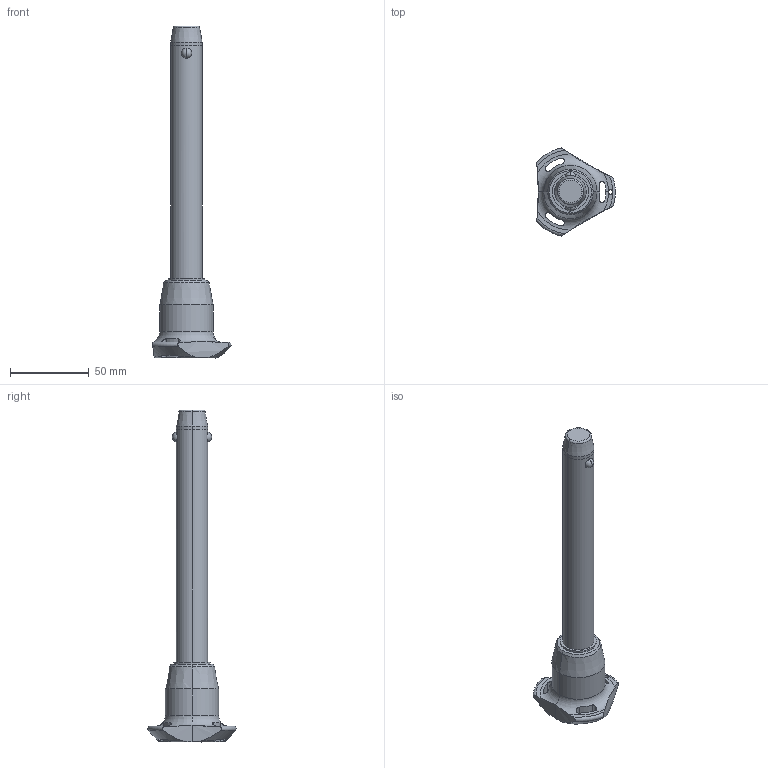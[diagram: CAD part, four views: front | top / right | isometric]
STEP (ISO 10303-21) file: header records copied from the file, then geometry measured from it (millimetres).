
FILE_DESCRIPTION (( 'STEP AP203' ), '1' );
FILE_NAME ('QR1736.M20-140-T.step', '2025-11-13T12:13:53', ( '' ), ( '' ), 'SwSTEP 2.0', 'SolidWorks 2019', '' );
FILE_SCHEMA (( 'CONFIG_CONTROL_DESIGN' ));
Length unit declared in the file: millimetre
Products named in the file (1): QR1736.M20-140-T
Bounding box: 50.05 x 56.02 x 211.2 mm (x, y, z)
Volume: 97757.9 mm3; surface area: 19764.2 mm2
Topology: 1 solids, 1 shells, 68 faces, 182 edges, 115 vertices
Faces by surface type: cylinder 32, cone 14, torus 11, sphere 6, plane 5
Entity records: 2938 total; most frequent: CARTESIAN_POINT 1192, ORIENTED_EDGE 364, DIRECTION 345, EDGE_CURVE 182, AXIS2_PLACEMENT_3D 154, VERTEX_POINT 115, CIRCLE 85, EDGE_LOOP 75
